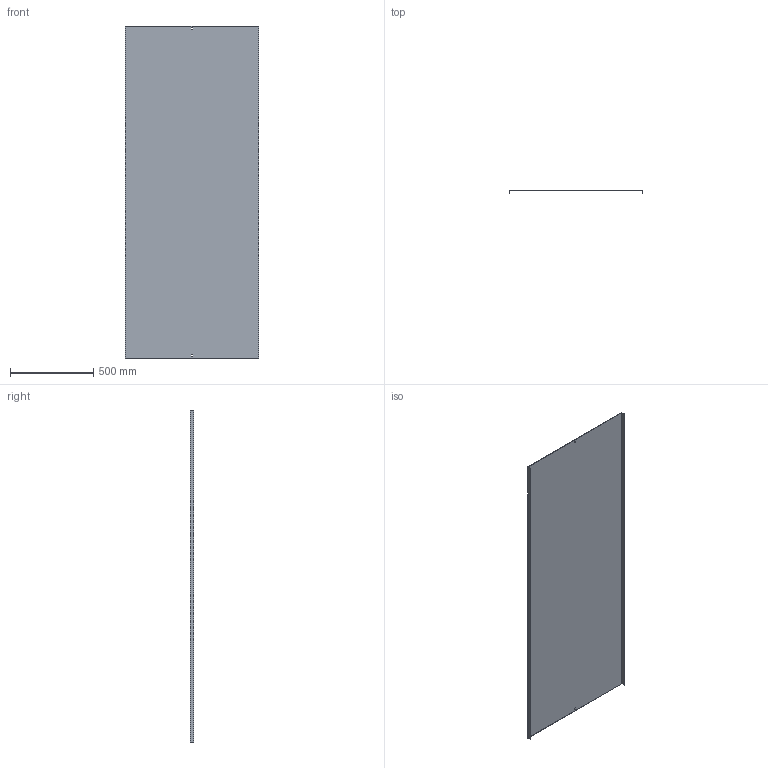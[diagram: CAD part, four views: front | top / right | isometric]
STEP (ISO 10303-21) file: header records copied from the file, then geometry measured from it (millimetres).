
FILE_DESCRIPTION (( 'STEP AP214' ), '1' );
FILE_NAME ('05N2R800.step', '2025-02-21T12:38:55', ( '' ), ( '' ), 'SwSTEP 2.0', 'SolidWorks 2023', '' );
FILE_SCHEMA (( 'AUTOMOTIVE_DESIGN' ));
Length unit declared in the file: millimetre
Products named in the file (1): 05N2R800
Bounding box: 803 x 20 x 2000 mm (x, y, z)
Volume: 2519824.5 mm3; surface area: 3368379 mm2
Topology: 1 solids, 1 shells, 18 faces, 48 edges, 32 vertices
Faces by surface type: plane 18
Entity records: 583 total; most frequent: CARTESIAN_POINT 99, ORIENTED_EDGE 96, DIRECTION 86, EDGE_CURVE 48, LINE 48, VECTOR 48, VERTEX_POINT 32, EDGE_LOOP 22
